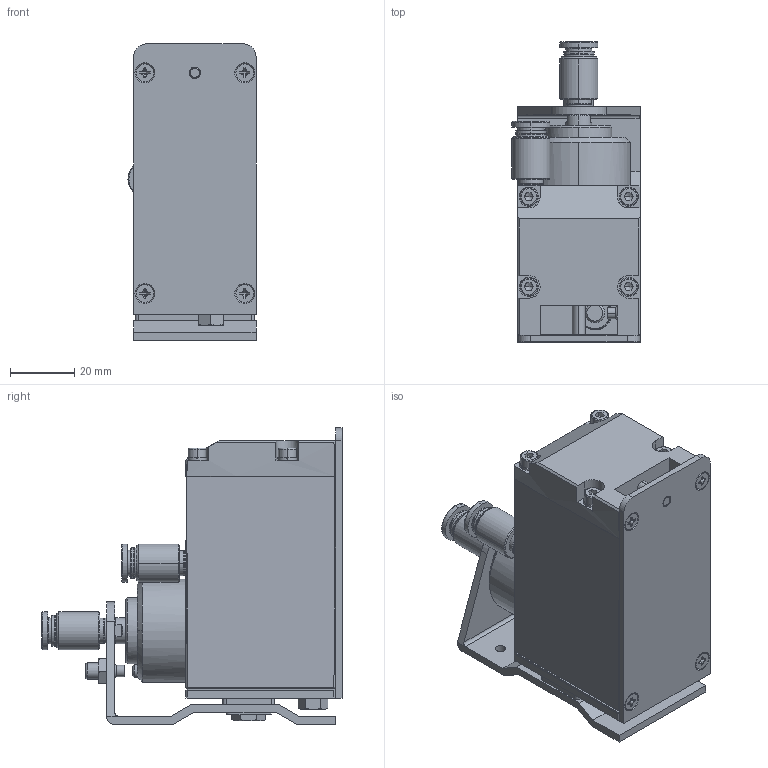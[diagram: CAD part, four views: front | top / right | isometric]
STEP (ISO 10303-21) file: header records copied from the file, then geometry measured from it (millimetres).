
FILE_DESCRIPTION (( 'STEP AP214' ), '1' );
FILE_NAME ('GT-NT10-6.STEP', '2019-11-27T08:52:27', ( '微软用户' ), ( '微软中国' ), 'SwSTEP 2.0', 'SolidWorks 2016', '' );
FILE_SCHEMA (( 'AUTOMOTIVE_DESIGN' ));
Length unit declared in the file: millimetre
Products named in the file (1): GT-NT10-6
Bounding box: 39.75 x 93.15 x 92 mm (x, y, z)
Surface area: 45895.2 mm2 (no closed solid volume)
Topology: 0 solids, 41 shells, 1069 faces, 2638 edges, 1671 vertices
Faces by surface type: plane 477, cylinder 283, bspline 221, cone 64, torus 24
Entity records: 48792 total; most frequent: CARTESIAN_POINT 19762, ORIENTED_EDGE 5138, DIRECTION 4162, EDGE_CURVE 2602, VERTEX_POINT 1671, AXIS2_PLACEMENT_3D 1555, EDGE_LOOP 1209, FACE_OUTER_BOUND 1069
